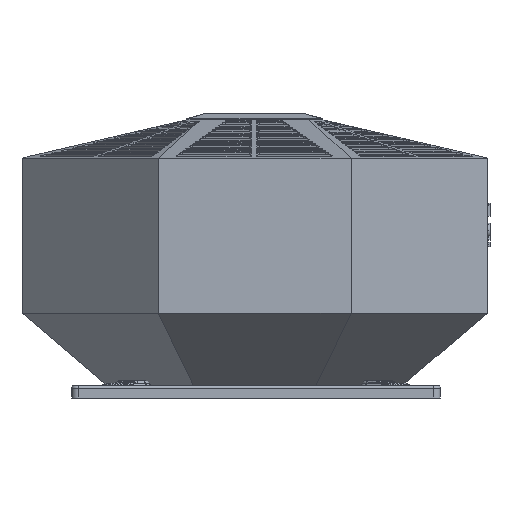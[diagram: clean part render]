
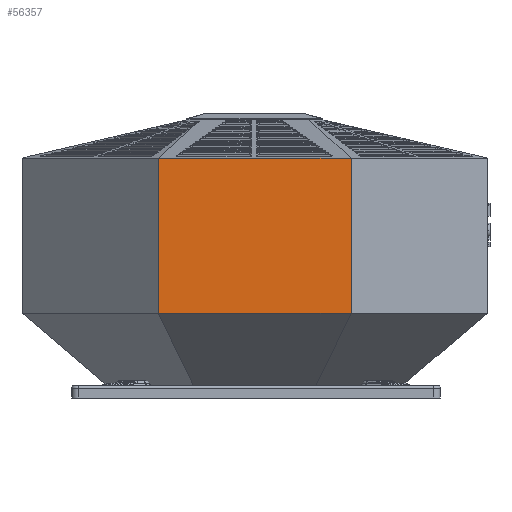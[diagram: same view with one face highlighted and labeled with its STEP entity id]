
A CAD part, left-side view. The second image highlights one B-rep face of the part: STEP entity #56357.
In plain terms, the highlighted planar face has unit normal (-1, 0, 0).
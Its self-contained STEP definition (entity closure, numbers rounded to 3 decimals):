
#8052=FACE_OUTER_BOUND('',#11408,.T.);
#11408=EDGE_LOOP('',(#50639,#50640,#50641,#50642));
#16626=LINE('',#96493,#21756);
#16631=LINE('',#96502,#21761);
#16635=LINE('',#96509,#21765);
#16639=LINE('',#96518,#21769);
#21756=VECTOR('',#75160,10.);
#21761=VECTOR('',#75169,10.);
#21765=VECTOR('',#75175,10.);
#21769=VECTOR('',#75187,10.);
#25407=VERTEX_POINT('',#86802);
#25412=VERTEX_POINT('',#86815);
#27008=VERTEX_POINT('',#96492);
#27012=VERTEX_POINT('',#96507);
#34924=EDGE_CURVE('',#27008,#25412,#16626,.T.);
#34929=EDGE_CURVE('',#25412,#25407,#16631,.T.);
#34933=EDGE_CURVE('',#27012,#25407,#16635,.T.);
#34937=EDGE_CURVE('',#27012,#27008,#16639,.T.);
#50639=ORIENTED_EDGE('',*,*,#34929,.T.);
#50640=ORIENTED_EDGE('',*,*,#34933,.F.);
#50641=ORIENTED_EDGE('',*,*,#34937,.T.);
#50642=ORIENTED_EDGE('',*,*,#34924,.T.);
#53499=PLANE('',#61049);
#56357=ADVANCED_FACE('',(#8052),#53499,.T.);
#61049=AXIS2_PLACEMENT_3D('',#96517,#75185,#75186);
#75160=DIRECTION('',(0.,0.,1.));
#75169=DIRECTION('',(0.,1.,0.));
#75175=DIRECTION('',(0.,0.,1.));
#75185=DIRECTION('center_axis',(-1.,0.,0.));
#75186=DIRECTION('ref_axis',(0.,-1.,0.));
#75187=DIRECTION('',(0.,-1.,0.));
#86802=CARTESIAN_POINT('',(-294.586,87.128,263.));
#86815=CARTESIAN_POINT('',(-294.586,-140.275,263.));
#96492=CARTESIAN_POINT('',(-294.586,-140.275,80.));
#96493=CARTESIAN_POINT('',(-294.586,-140.275,-5.));
#96502=CARTESIAN_POINT('',(-294.586,167.528,263.));
#96507=CARTESIAN_POINT('',(-294.586,87.128,80.));
#96509=CARTESIAN_POINT('',(-294.586,87.128,-5.));
#96517=CARTESIAN_POINT('Origin',(-294.586,87.128,-5.));
#96518=CARTESIAN_POINT('',(-294.586,167.528,80.));
